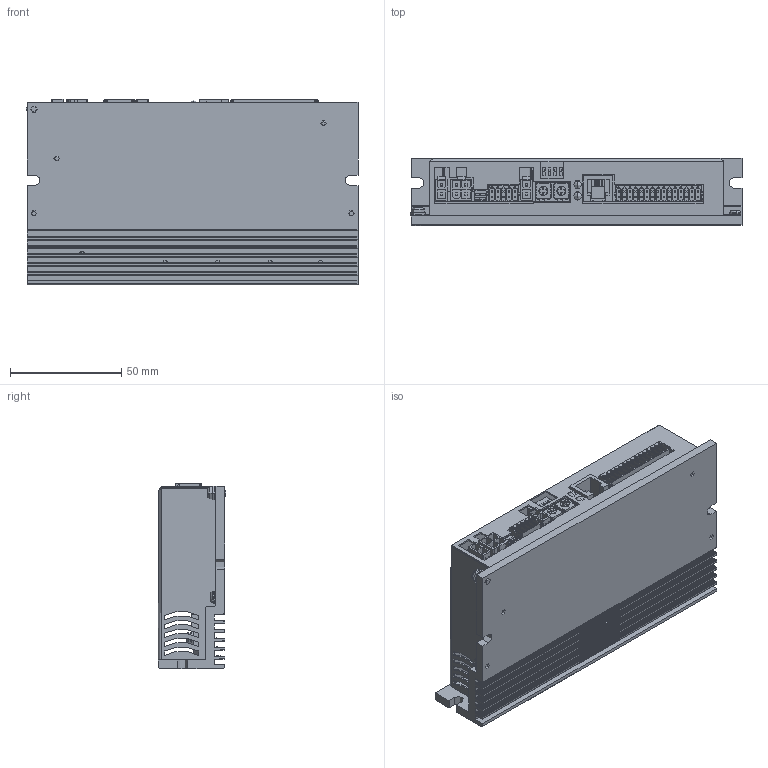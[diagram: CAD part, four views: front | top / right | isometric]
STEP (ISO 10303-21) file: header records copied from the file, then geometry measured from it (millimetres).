
FILE_DESCRIPTION((''),'2;1');
FILE_NAME('SW4_ASM','2019-08-27T15:28:46',('Matteo Maccalli'),(''),'CREO PARAMETRIC BY PTC INC, 2017260','CREO PARAMETRIC BY PTC INC, 2017260','');
FILE_SCHEMA(('AUTOMOTIVE_DESIGN { 1 0 10303 214 1 1 1 1 }'));
Products named in the file (58): ESTRUSO_IMD03-00; AD_00907-00_IMD03_00; SCATOLA_SW4_IMD03-00_RJ11; TCC_M2E5X04_AF0; TCC_M2E5X04_AF1; MAR-PN3; RONDELLA_DENTELLATA; TCC_M3X06_AF0; DIST_MF_M2E5X5_FIL4; BOARD-93; BOARD-16068; A6E-4104; DIP100_ASM; IMD03DIP-00_ASM; J403_ASM; 5151061F; GL400_ASM; DMC_0_5-15-G-2_54_THR; DMC_0_5_15-G1-2_54_P20THR_ASM_ASM; 1844853_01_ASM; CN3_ASM; DMC_0_5-5-G-2_54_THR; 1844756_ASM; CN4_ASM; 955012641_DARKGREY; CN6_ASM; RTE0400V04; SW400_ASM; SW401_ASM; SOLID-292681; COMPOUND-298927; MOLEX_039300020_ASM; CN1L_ASM; CN1_ASM; SOLID-268818; COMPOUND-277384; MOLEX_039300040_ASM; CN2_ASM; C-5555153-1-C-3D; CN5A_ASM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
Assembly tree (66 placements, depth 7):
  SW4_ASM
    ESTRUSO_IMD03-00
    AD_00907-00_IMD03_00
    SCATOLA_SW4_IMD03-00_RJ11
    TCC_M2E5X04_AF0
    TCC_M2E5X04_AF1
    MAR-PN3
    RONDELLA_DENTELLATA
    TCC_M3X06_AF0
    DIST_MF_M2E5X5_FIL4  x2
    ASM0054_ASM
      PCB_ASM
        BOARD-93
        J403_ASM
          IMD03DIP-00_ASM
            BOARD-16068
            DIP100_ASM
              A6E-4104
        GL400_ASM
          5151061F
        CN3_ASM
          1844853_01_ASM
            DMC_0_5_15-G1-2_54_P20THR_ASM_ASM
              DMC_0_5-15-G-2_54_THR
        CN4_ASM
          1844756_ASM
            DMC_0_5-5-G-2_54_THR
        CN6_ASM
          955012641_DARKGREY
        SW400_ASM
          RTE0400V04
        SW401_ASM
          RTE0400V04
        CN1L_ASM
          MOLEX_039300020_ASM
            SOLID-292681
            COMPOUND-298927
        CN1_ASM
          MOLEX_039300020_ASM
            SOLID-292681
            COMPOUND-298927
        CN2_ASM
          MOLEX_039300040_ASM
            SOLID-268818
            COMPOUND-277384
        CN5A_ASM
          C-5555153-1-C-3D
        CN5B_ASM
          C-5555153-1-C-3D
        DP200_ASM
          PONTE_GSIB254_TERMINALI_5_1
        JMP500_ASM
          877600416
        T200_ASM
          E13
        CE200_ASM
          CE_18X40_P7E62_ORRIZZONTALE
        CN7_ASM
          ASM0056_ASM
            PRT0028
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Bounding box: 149.3 x 30.5 x 83.45 mm (x, y, z)
Topology: 27 solids, 275 shells, 5866 faces, 17308 edges, 11361 vertices
Faces by surface type: plane 4678, cylinder 798, bspline 168, sphere 84, torus 56, extrusion 54, cone 28
Full cylindrical faces by diameter (mm): 0.2 x2, 0.254 x4, 0.4 x4, 0.508 x8, 0.6 x44, 0.7 x16, 0.752 x4, 1 x18, 1.2 x44, 2.2 x2, 2.5 x8, 3 x2, 3.226 x8, 3.5 x6, 3.556 x4, 4.054 x4
Entity records: 224914 total; most frequent: CARTESIAN_POINT 52361, ORIENTED_EDGE 26334, DIRECTION 23651, EDGE_CURVE 14479, PRESENTATION_STYLE_ASSIGNMENT 12161, VECTOR 11147, LINE 11093, STYLED_ITEM 10471
